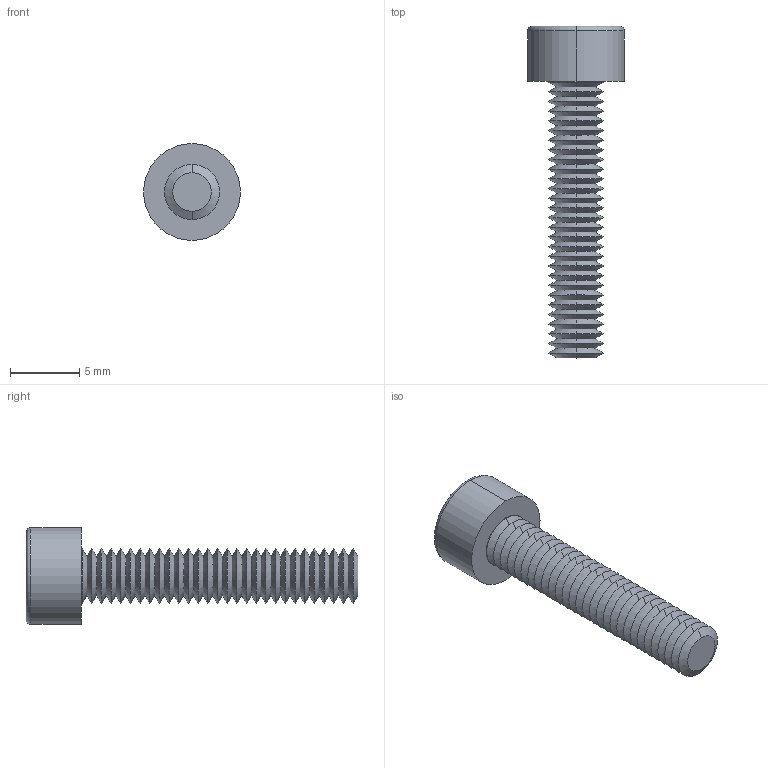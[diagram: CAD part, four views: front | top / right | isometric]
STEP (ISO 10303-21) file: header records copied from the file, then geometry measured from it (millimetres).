
FILE_DESCRIPTION (( 'STEP AP203' ), '1' );
FILE_NAME ('91N.040.0200.step', '2025-05-20T08:51:14', ( '' ), ( '' ), 'SwSTEP 2.0', 'SolidWorks 2019', '' );
FILE_SCHEMA (( 'CONFIG_CONTROL_DESIGN' ));
Length unit declared in the file: millimetre
Products named in the file (1): 91N.040.0200
Bounding box: 7 x 24 x 7 mm (x, y, z)
Volume: 310.9 mm3; surface area: 613.1 mm2
Topology: 1 solids, 1 shells, 144 faces, 287 edges, 145 vertices
Faces by surface type: cone 123, plane 15, cylinder 4, torus 2
Entity records: 3678 total; most frequent: DIRECTION 707, CARTESIAN_POINT 602, ORIENTED_EDGE 570, EDGE_CURVE 285, AXIS2_PLACEMENT_3D 284, EDGE_LOOP 146, VERTEX_POINT 145, FACE_OUTER_BOUND 144
